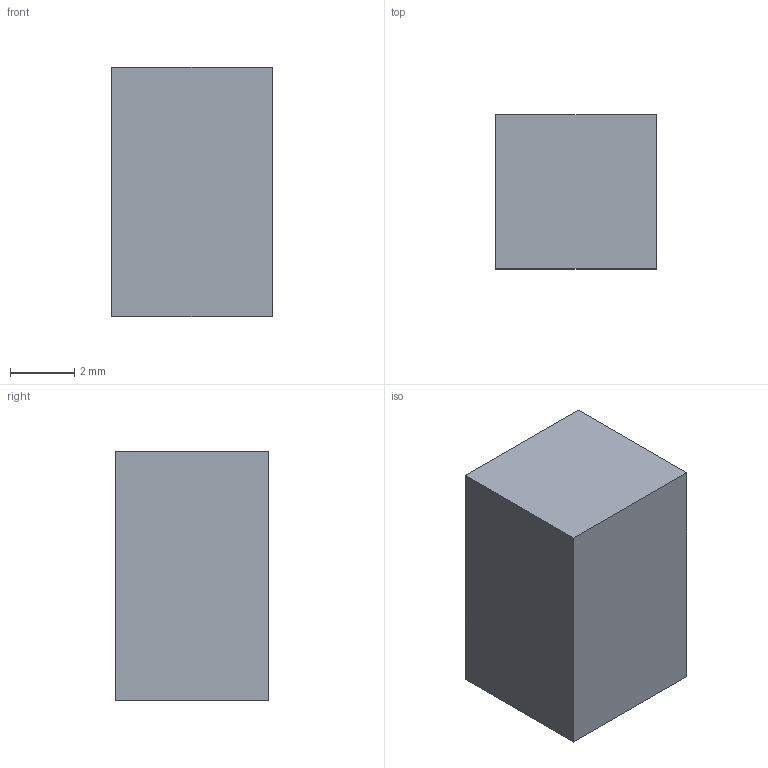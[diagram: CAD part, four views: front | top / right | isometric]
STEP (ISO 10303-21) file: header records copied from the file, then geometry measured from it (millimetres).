
FILE_DESCRIPTION(('Open CASCADE Model'),'2;1');
FILE_NAME('Open CASCADE Shape Model','2026-09-24T05:33:26',('Author'),( 'Open CASCADE'),'Open CASCADE STEP processor 7.8','Open CASCADE 7.8' ,'Unknown');
FILE_SCHEMA(('AUTOMOTIVE_DESIGN { 1 0 10303 214 1 1 1 1 }'));
Length unit declared in the file: millimetre
Products named in the file (1): Open CASCADE STEP translator 7.8 125
Bounding box: 5 x 4.8 x 7.8 mm (x, y, z)
Volume: 187.2 mm3; surface area: 200.9 mm2
Topology: 1 solids, 1 shells, 6 faces, 12 edges, 8 vertices
Faces by surface type: plane 6
Entity records: 322 total; most frequent: CARTESIAN_POINT 51, DIRECTION 50, LINE 36, VECTOR 36, ORIENTED_EDGE 24, PCURVE 24, DEFINITIONAL_REPRESENTATION 24, EDGE_CURVE 12
